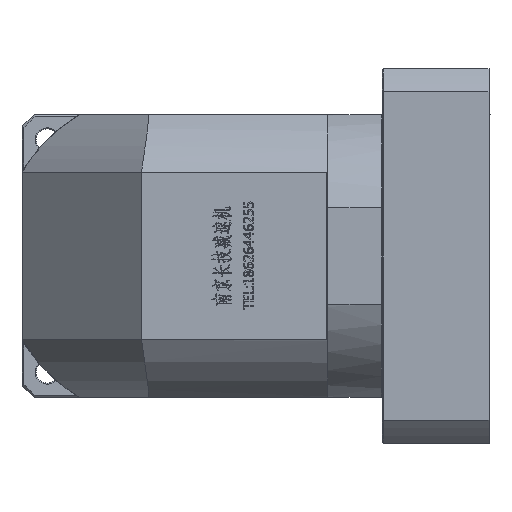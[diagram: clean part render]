
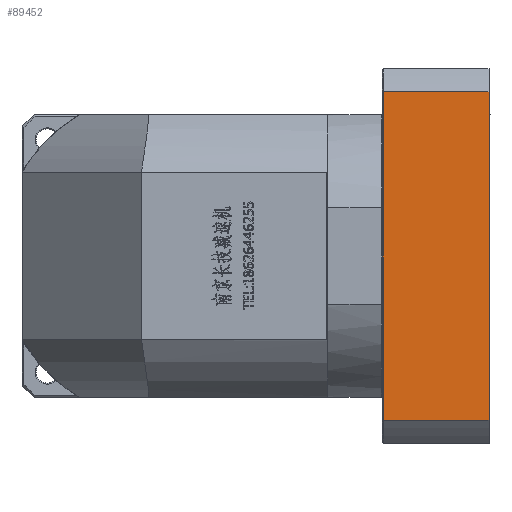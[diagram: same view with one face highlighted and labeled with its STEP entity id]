
A CAD part, left-side view. The second image highlights one B-rep face of the part: STEP entity #89452.
In plain terms, the highlighted planar face has unit normal (-1, 0, 0).
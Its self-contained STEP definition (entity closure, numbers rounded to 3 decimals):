
#163 = CARTESIAN_POINT ( 'NONE',  ( -334.551, 39.014, -117.562 ) ) ;
#2146 = CARTESIAN_POINT ( 'NONE',  ( -334.551, -13.986, 47.229 ) ) ;
#2259 = VERTEX_POINT ( 'NONE', #38874 ) ;
#2773 = PLANE ( 'NONE',  #100765 ) ;
#7051 = VECTOR ( 'NONE', #130049, 1000. ) ;
#12144 = EDGE_CURVE ( 'NONE', #2259, #105299, #88136, .T. ) ;
#20038 = ORIENTED_EDGE ( 'NONE', *, *, #51689, .F. ) ;
#32639 = ORIENTED_EDGE ( 'NONE', *, *, #12144, .T. ) ;
#35481 = VECTOR ( 'NONE', #149637, 1000. ) ;
#38874 = CARTESIAN_POINT ( 'NONE',  ( -334.551, 39.014, 47.229 ) ) ;
#43409 = EDGE_CURVE ( 'NONE', #2259, #151981, #83969, .T. ) ;
#51689 = EDGE_CURVE ( 'NONE', #135372, #105299, #73513, .T. ) ;
#55616 = DIRECTION ( 'NONE',  ( 0., 0., -1. ) ) ;
#64149 = EDGE_LOOP ( 'NONE', ( #69007, #32639, #20038, #146267 ) ) ;
#69007 = ORIENTED_EDGE ( 'NONE', *, *, #43409, .F. ) ;
#73513 = LINE ( 'NONE', #135544, #35481 ) ;
#83969 = LINE ( 'NONE', #167788, #151159 ) ;
#88136 = LINE ( 'NONE', #97398, #155305 ) ;
#89295 = LINE ( 'NONE', #89508, #7051 ) ;
#89452 = ADVANCED_FACE ( 'NONE', ( #165840 ), #2773, .F. ) ;
#89508 = CARTESIAN_POINT ( 'NONE',  ( -334.551, -13.986, -129.167 ) ) ;
#97398 = CARTESIAN_POINT ( 'NONE',  ( -334.551, 39.014, -129.167 ) ) ;
#100765 = AXIS2_PLACEMENT_3D ( 'NONE', #153351, #126445, #153942 ) ;
#105299 = VERTEX_POINT ( 'NONE', #163 ) ;
#118208 = DIRECTION ( 'NONE',  ( 0., -1., 0. ) ) ;
#121145 = EDGE_CURVE ( 'NONE', #151981, #135372, #89295, .T. ) ;
#125275 = CARTESIAN_POINT ( 'NONE',  ( -334.551, -13.986, -117.562 ) ) ;
#126445 = DIRECTION ( 'NONE',  ( 1., 0., 0. ) ) ;
#130049 = DIRECTION ( 'NONE',  ( 0., 0., -1. ) ) ;
#135372 = VERTEX_POINT ( 'NONE', #125275 ) ;
#135544 = CARTESIAN_POINT ( 'NONE',  ( -334.551, 396.603, -117.562 ) ) ;
#146267 = ORIENTED_EDGE ( 'NONE', *, *, #121145, .F. ) ;
#149637 = DIRECTION ( 'NONE',  ( 0., 1., 0. ) ) ;
#151159 = VECTOR ( 'NONE', #118208, 1000. ) ;
#151981 = VERTEX_POINT ( 'NONE', #2146 ) ;
#153351 = CARTESIAN_POINT ( 'NONE',  ( -334.551, -14.486, -129.167 ) ) ;
#153942 = DIRECTION ( 'NONE',  ( 0., 1., 0. ) ) ;
#155305 = VECTOR ( 'NONE', #55616, 1000. ) ;
#165840 = FACE_OUTER_BOUND ( 'NONE', #64149, .T. ) ;
#167788 = CARTESIAN_POINT ( 'NONE',  ( -334.551, -14.486, 47.229 ) ) ;
